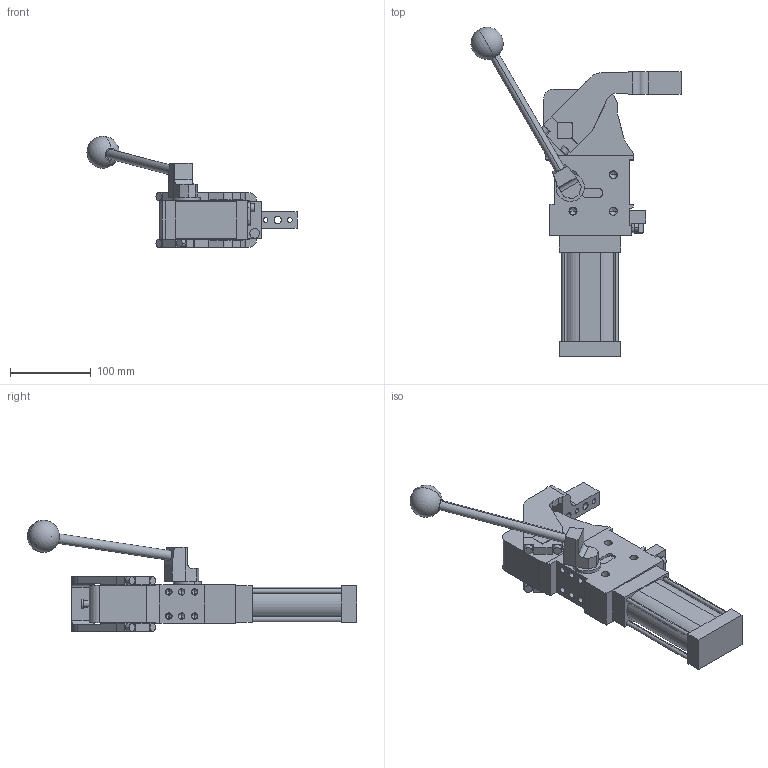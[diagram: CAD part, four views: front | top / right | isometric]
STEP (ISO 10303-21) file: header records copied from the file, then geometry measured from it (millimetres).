
FILE_DESCRIPTION (( 'STEP AP214' ), '1' );
FILE_NAME ('cplm50lav3csi1g_26.STEP', '2023-01-26T13:57:53', ( '' ), ( '' ), 'SwSTEP 2.0', 'SolidWorks 2022', '' );
FILE_SCHEMA (( 'AUTOMOTIVE_DESIGN' ));
Length unit declared in the file: millimetre
Products named in the file (5): comando_manuale_cplm_50; meccanica_cplm_50; leva_cx_offset_45_cpl50; blocchetto_VEP_0; cplm50lav3csi1g_26
Assembly tree (4 placements, depth 2):
  cplm50lav3csi1g_26
    meccanica_cplm_50
    blocchetto_VEP_0
    leva_cx_offset_45_cpl50
    comando_manuale_cplm_50
Bounding box: 260.57 x 408.56 x 138.5 mm (x, y, z)
Volume: 1472648.4 mm3; surface area: 183543.8 mm2
Topology: 4 solids, 4 shells, 433 faces, 1114 edges, 695 vertices
Faces by surface type: plane 214, cylinder 167, cone 50, sphere 2
Entity records: 14437 total; most frequent: DIRECTION 2293, CARTESIAN_POINT 2271, ORIENTED_EDGE 2126, EDGE_CURVE 1063, AXIS2_PLACEMENT_3D 796, LINE 701, VECTOR 701, VERTEX_POINT 692
